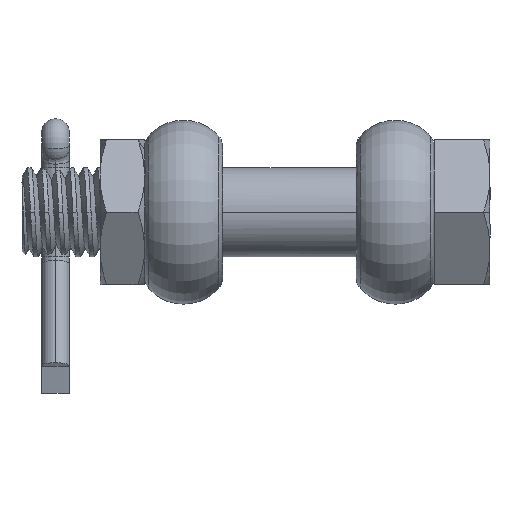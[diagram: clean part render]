
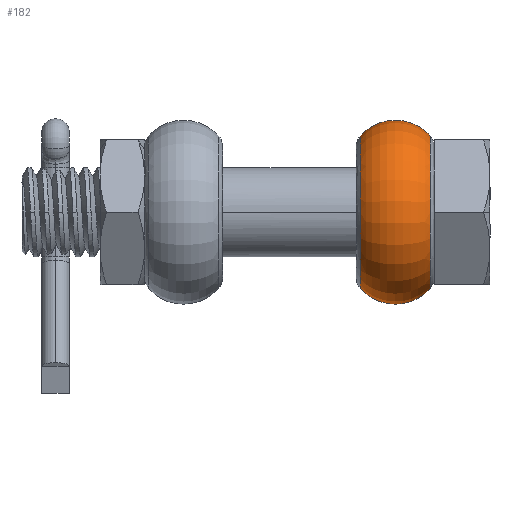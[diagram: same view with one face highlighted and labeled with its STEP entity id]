
A CAD part, front view. The second image highlights one B-rep face of the part: STEP entity #182.
In plain terms, the highlighted toroidal (fillet/blend) face has major radius 4.05 mm and minor radius 4.2 mm.
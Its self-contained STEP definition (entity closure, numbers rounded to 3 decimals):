
#182=ADVANCED_FACE('NONE',(#680),#681,.T.);
#680=FACE_OUTER_BOUND('',#2772,.T.);
#681=TOROIDAL_SURFACE('',#2773,4.05,4.2);
#2772=EDGE_LOOP('',(#9892,#9893,#9894,#9895));
#2773=AXIS2_PLACEMENT_3D('',#9896,#9897,#9898);
#9892=ORIENTED_EDGE('',*,*,#12481,.F.);
#9893=ORIENTED_EDGE('',*,*,#12486,.F.);
#9894=ORIENTED_EDGE('',*,*,#12487,.T.);
#9895=ORIENTED_EDGE('',*,*,#12488,.F.);
#9896=CARTESIAN_POINT('',(9.5,0.,0.));
#9897=DIRECTION('',(1.0,-0.0,0.0));
#9898=DIRECTION('',(0.0,0.0,-1.0));
#12481=EDGE_CURVE('NONE',#13810,#13812,#13813,.T.);
#12486=EDGE_CURVE('NONE',#13821,#13810,#13822,.T.);
#12487=EDGE_CURVE('NONE',#13821,#13823,#13824,.T.);
#12488=EDGE_CURVE('NONE',#13812,#13823,#13825,.T.);
#13810=VERTEX_POINT('NONE',#17111);
#13812=VERTEX_POINT('NONE',#17113);
#13813=CIRCLE('',#17114,4.2);
#13821=VERTEX_POINT('NONE',#17162);
#13822=CIRCLE('',#17163,6.828);
#13823=VERTEX_POINT('NONE',#17164);
#13824=CIRCLE('',#17165,4.2);
#13825=CIRCLE('',#17166,6.828);
#17111=CARTESIAN_POINT('',(6.35,0.,6.828));
#17113=CARTESIAN_POINT('',(12.65,0.,6.828));
#17114=AXIS2_PLACEMENT_3D('',#23577,#23578,#23579);
#17162=CARTESIAN_POINT('',(6.35,0.,-6.828));
#17163=AXIS2_PLACEMENT_3D('',#23583,#23584,#23585);
#17164=CARTESIAN_POINT('',(12.65,0.,-6.828));
#17165=AXIS2_PLACEMENT_3D('',#23586,#23587,#23588);
#17166=AXIS2_PLACEMENT_3D('',#23589,#23590,#23591);
#23577=CARTESIAN_POINT('',(9.5,0.,4.05));
#23578=DIRECTION('',(-0.0,1.0,0.));
#23579=DIRECTION('',(0.0,0.,1.0));
#23583=CARTESIAN_POINT('',(6.35,0.,0.));
#23584=DIRECTION('',(-1.0,0.,0.));
#23585=DIRECTION('',(0.,1.0,0.));
#23586=CARTESIAN_POINT('',(9.5,0.,-4.05));
#23587=DIRECTION('',(0.0,-1.0,0.0));
#23588=DIRECTION('',(0.0,0.0,-1.0));
#23589=CARTESIAN_POINT('',(12.65,0.,0.));
#23590=DIRECTION('',(1.0,0.,0.));
#23591=DIRECTION('',(0.,-1.0,0.0));
